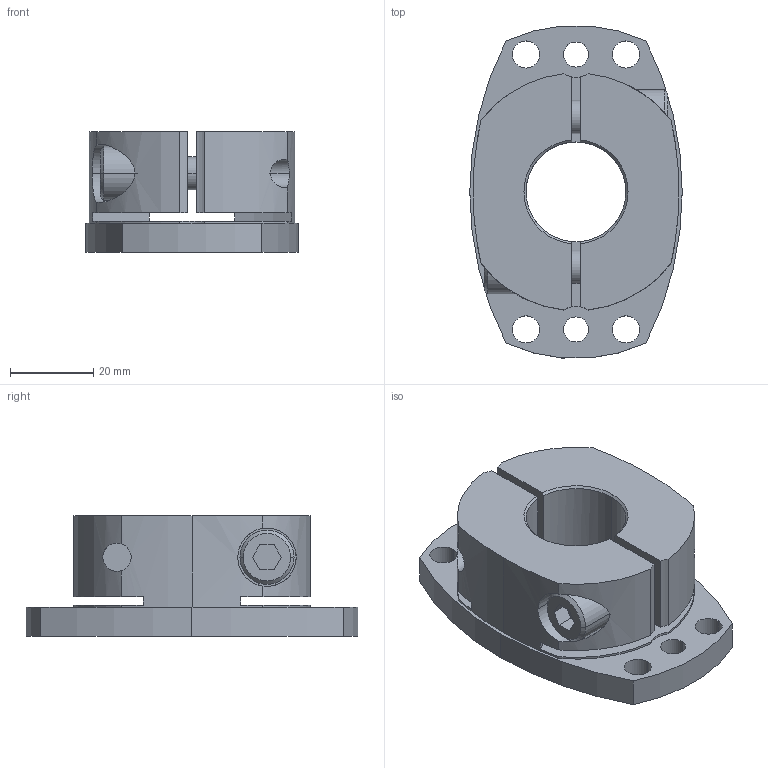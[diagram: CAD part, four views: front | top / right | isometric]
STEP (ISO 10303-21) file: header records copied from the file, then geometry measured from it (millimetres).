
FILE_DESCRIPTION((''),'2;1');
FILE_NAME('SHDB-80B-24.stp','2026-01-28T08:27:12',(''),(''),'AutoCAD STEP 2000i','AutoCAD 2000i',', , ');
FILE_SCHEMA(('CONFIG_CONTROL_DESIGN'));
Length unit declared in the file: millimetre
Products named in the file (2): SHDB-80B-20; 忣兜1
Assembly tree (1 placements, depth 2):
  SHDB-80B-20
    忣兜1
Bounding box: 51 x 79.7 x 29 mm (x, y, z)
Volume: 57011.3 mm3; surface area: 19328.2 mm2
Topology: 1 solids, 1 shells, 102 faces, 280 edges, 184 vertices
Faces by surface type: cylinder 58, plane 34, cone 10
Entity records: 3715 total; most frequent: CARTESIAN_POINT 888, DIRECTION 602, ORIENTED_EDGE 560, EDGE_CURVE 280, AXIS2_PLACEMENT_3D 238, VERTEX_POINT 184, CIRCLE 134, VECTOR 126
